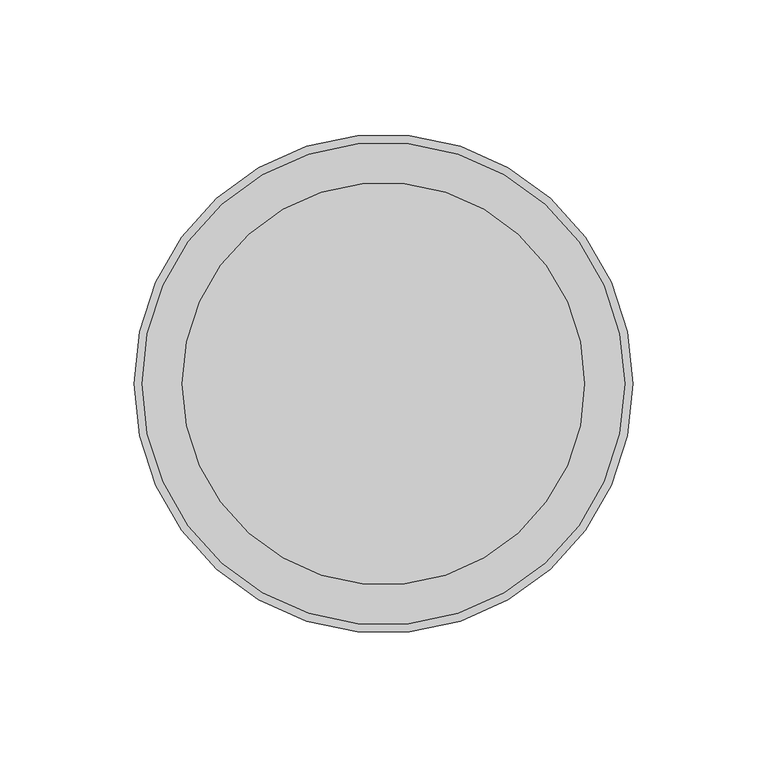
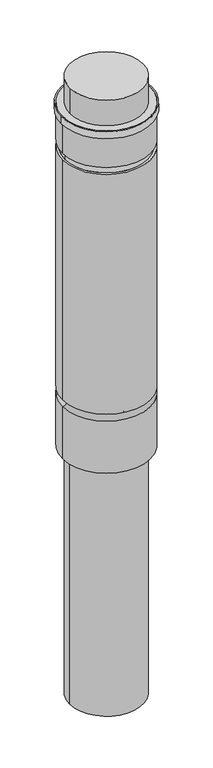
"""IFC4 building model written with IfcOpenShell, lengths in millimetres: air terminal geometry, RSFen_AIR_WPB_flue gas rooftop terminal_M&G : PP Black, ø150."""

from ifc_helpers import new_model, si_unit, point, frame, origin, origin_with_axes, origin_2d, place, context, project, spatial, circle_curve, ellipse_curve, trimmed, segment, composite_curve, outline, extrude, source, transform, mapped, element, save
from ifc_brep_helpers import plane_surface, cylinder_surface, revolved_surface, advanced_brep


def air_terminal_16127070(model_context):
    return source(origin(), model_context, "Body", "SolidModel", [
        advanced_brep(
        [(-90.0, 0.0, 743.0), (90.0, 0.0, 743.0), (-90.0, 0.0, 0.0), (90.0, 0.0, 0.0), (-90.0, 0.0, 663.0), (90.0, 0.0, 663.0), (90.0, 0.0, 112.5), (-90.0, 0.0, 112.5), (90.0, 0.0, 648.0), (-90.0, 0.0, 648.0), (-90.0, 0.0, 127.5), (90.0, 0.0, 127.5), (85.0, 0.0, 663.0), (85.0, 0.0, 648.0), (-85.0, 0.0, 648.0), (-85.0, 0.0, 663.0)],
        [
            (0, 1, circle_curve(frame((0.0, 0.0, 743.0), z_axis=(0.0, 0.0, 1.0), x_axis=(1.0, 0.0, 0.0)), 90.0)),
            (1, 0, circle_curve(frame((0.0, 0.0, 743.0), z_axis=(0.0, 0.0, 1.0), x_axis=(1.0, 0.0, 0.0)), 90.0)),
            (2, 3, circle_curve(frame((0.0, 0.0, 0.0), z_axis=(0.0, 0.0, -1.0), x_axis=(1.0, 0.0, 0.0)), 90.0)),
            (3, 2, circle_curve(frame((0.0, 0.0, 0.0), z_axis=(0.0, 0.0, -1.0), x_axis=(1.0, 0.0, 0.0)), 90.0)),
            (0, 4),
            (4, 5, circle_curve(frame((0.0, 0.0, 663.0), z_axis=(0.0, 0.0, 1.0), x_axis=(1.0, 0.0, 0.0)), 90.0)),
            (5, 1),
            (3, 6),
            (6, 7, circle_curve(frame((0.0, 0.0, 112.5), z_axis=(0.0, 0.0, -1.0), x_axis=(1.0, 0.0, 0.0)), 90.0)),
            (7, 2),
            (8, 9, circle_curve(frame((0.0, 0.0, 648.0), z_axis=(0.0, 0.0, -1.0), x_axis=(1.0, 0.0, 0.0)), 90.0)),
            (9, 10),
            (10, 11, circle_curve(frame((0.0, 0.0, 127.5), z_axis=(0.0, 0.0, 1.0), x_axis=(1.0, 0.0, 0.0)), 90.0)),
            (11, 8),
            (5, 4, circle_curve(frame((0.0, 0.0, 663.0), z_axis=(0.0, 0.0, 1.0), x_axis=(1.0, 0.0, 0.0)), 90.0)),
            (7, 6, circle_curve(frame((0.0, 0.0, 112.5), z_axis=(0.0, 0.0, -1.0), x_axis=(1.0, 0.0, 0.0)), 90.0)),
            (9, 8, circle_curve(frame((0.0, 0.0, 648.0), z_axis=(0.0, 0.0, -1.0), x_axis=(1.0, 0.0, 0.0)), 90.0)),
            (11, 10, circle_curve(frame((0.0, 0.0, 127.5), z_axis=(0.0, 0.0, 1.0), x_axis=(1.0, 0.0, 0.0)), 90.0)),
            (12, 13),
            (13, 14, circle_curve(frame((0.0, 0.0, 648.0), z_axis=(0.0, 0.0, 1.0), x_axis=(-1.0, 0.0, 0.0)), 85.0)),
            (14, 15),
            (15, 12, circle_curve(frame((0.0, 0.0, 663.0), z_axis=(0.0, 0.0, -1.0), x_axis=(-1.0, 0.0, 0.0)), 85.0)),
            (15, 12, circle_curve(frame((0.0, 0.0, 663.0), z_axis=(0.0, 0.0, 1.0), x_axis=(1.0, 0.0, 0.0)), 85.0)),
            (13, 14, circle_curve(frame((0.0, 0.0, 648.0), z_axis=(0.0, 0.0, -1.0), x_axis=(1.0, 0.0, 0.0)), 85.0)),
            (7, 10, circle_curve(frame((-90.0, 0.0, 120.0), z_axis=(0.0, -1.0, 0.0), x_axis=(-1.0, 0.0, 0.0)), 7.5)),
            (11, 6, circle_curve(frame((90.0, 0.0, 120.0), z_axis=(0.0, -1.0, 0.0), x_axis=(1.0, 0.0, 0.0)), 7.5)),
        ],
        [
            plane_surface(frame((90.0, 0.0, 743.0), z_axis=(0.0, 0.0, 1.0), x_axis=(0.0, 1.0, 0.0))),
            plane_surface(frame((90.0, 0.0, 0.0), z_axis=(0.0, 0.0, -1.0), x_axis=(0.0, -1.0, 0.0))),
            cylinder_surface(origin_with_axes(), 90.0),
            cylinder_surface(frame((0.0, 0.0, 743.0), z_axis=(0.0, 0.0, -1.0), x_axis=(-1.0, 0.0, 0.0)), 85.0),
            plane_surface(frame((0.0, 0.0, 663.0), z_axis=(0.0, 0.0, -1.0), x_axis=(1.0, 0.0, 0.0))),
            plane_surface(frame((0.0, 0.0, 648.0), z_axis=(0.0, 0.0, 1.0), x_axis=(1.0, 0.0, 0.0))),
            cylinder_surface(frame((0.0, 0.0, 743.0), z_axis=(0.0, 0.0, -1.0), x_axis=(1.0, 0.0, 0.0)), 85.0),
            revolved_surface(trimmed(ellipse_curve(frame((90.0, 0.0, 120.0), z_axis=(0.0, 1.0, 0.0), x_axis=(1.0, 0.0, 0.0)), 7.5, 7.5), [point((90.0, 0.0, 112.5))], [point((90.0, 0.0, 127.5))], True, "CARTESIAN"), (0.0, 0.0, 0.0), (0.0, 0.0, 1.0)),
            revolved_surface(trimmed(ellipse_curve(frame((-90.0, 0.0, 120.0), z_axis=(0.0, -1.0, 0.0), x_axis=(-1.0, 0.0, 0.0)), 7.5, 7.5), [point((-90.0, 0.0, 112.5))], [point((-90.0, 0.0, 127.5))], True, "CARTESIAN"), (0.0, 0.0, 0.0), (0.0, 0.0, 1.0)),
        ],
        [
            (0, [[1, 2]]),
            (1, [[3, 4]]),
            (2, [[-1, 5, 6, 7]]),
            (2, [[-4, 8, 9, 10]]),
            (2, [[11, 12, 13, 14]]),
            (2, [[-2, -7, 15, -5]]),
            (2, [[-3, -10, 16, -8]]),
            (2, [[17, -14, 18, -12]]),
            (3, [[19, 20, 21, 22]]),
            (4, [[-6, -15], [-22, 23]]),
            (5, [[-11, -17], [-20, 24]]),
            (6, [[-19, -23, -21, -24]]),
            (7, [[25, -18, 26, -16]]),
            (8, [[-25, -9, -26, -13]]),
        ],
    ),
        extrude(outline(composite_curve([segment(trimmed(circle_curve(origin_2d(), 93.0), [point((-93.0, 0.0))], [point((93.0, 0.0))], False, "CARTESIAN"), True, "CONTINUOUS"), segment(trimmed(circle_curve(origin_2d(), 93.0), [point((93.0, 0.0))], [point((-93.0, 0.0))], False, "CARTESIAN"), True, "CONTINUOUS")], self_intersect=False), holes=[composite_curve([segment(trimmed(circle_curve(origin_2d(), 90.0), [point((90.0, 0.0))], [point((-90.0, 0.0))], True, "CARTESIAN"), True, "CONTINUOUS"), segment(trimmed(circle_curve(origin_2d(), 90.0), [point((-90.0, 0.0))], [point((90.0, 0.0))], True, "CARTESIAN"), True, "CONTINUOUS")], self_intersect=False)]), frame((0.0, 0.0, 728.0), z_axis=(0.0, 0.0, 1.0), x_axis=(1.0, 0.0, 0.0)), (0.0, 0.0, 1.0), 15.0),
        extrude(outline(composite_curve([segment(trimmed(circle_curve(origin_2d(), 75.0), [point((75.0, 0.0))], [point((-75.0, 0.0))], False, "CARTESIAN"), True, "CONTINUOUS"), segment(trimmed(circle_curve(origin_2d(), 75.0), [point((-75.0, 0.0))], [point((75.0, 0.0))], False, "CARTESIAN"), True, "CONTINUOUS")], self_intersect=False)), frame((0.0, 0.0, 743.0), z_axis=(0.0, 0.0, 1.0), x_axis=(1.0, 0.0, 0.0)), (0.0, 0.0, 1.0), 56.0),
        extrude(outline(composite_curve([segment(trimmed(circle_curve(origin_2d(), 75.0), [point((-75.0, 0.0))], [point((75.0, 0.0))], False, "CARTESIAN"), True, "CONTINUOUS"), segment(trimmed(circle_curve(origin_2d(), 75.0), [point((75.0, 0.0))], [point((-75.0, 0.0))], False, "CARTESIAN"), True, "CONTINUOUS")], self_intersect=False)), frame((0.0, 0.0, -538.1611632), z_axis=(0.0, 0.0, 1.0), x_axis=(1.0, 0.0, 0.0)), (0.0, 0.0, 1.0), 538.1611632),
    ])


if __name__ == "__main__":
    model = new_model("IFC4")
    model_context = context("Model", 3, world=origin())
    ifc_project = project(units=[si_unit("LENGTHUNIT", "METRE", prefix="MILLI")], contexts=[model_context])
    site = spatial("IfcSite", under=ifc_project)
    building = spatial("IfcBuilding", under=site)
    placement = place(None, origin())
    air_terminal_shape = air_terminal_16127070(model_context)
    element("IfcAirTerminal", 1, ObjectType="RSFen_AIR_WPB_flue gas rooftop terminal_M&G : PP Black, ø150", at=placement, inside=building, context=model_context, shape_type="MappedRepresentation", body=[
        mapped(air_terminal_shape, transform((0.0, 0.0, 0.0), x_axis=(1.0, 0.0, 0.0), y_axis=(0.0, 1.0, 0.0), z_axis=(0.0, 0.0, 1.0))),
    ])
    save(model, "model.ifc")
